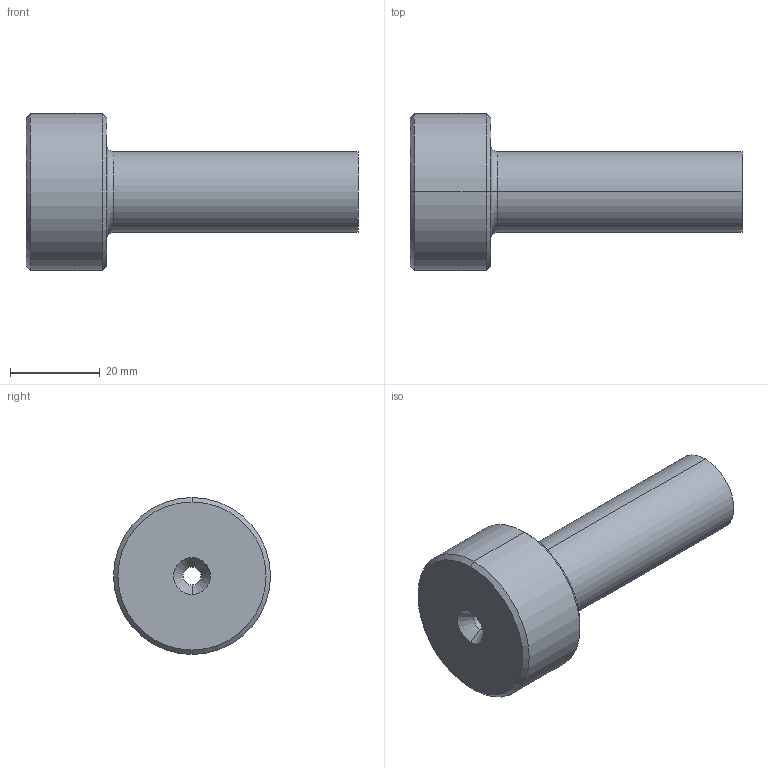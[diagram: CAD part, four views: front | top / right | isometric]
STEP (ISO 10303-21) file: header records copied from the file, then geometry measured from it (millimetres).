
FILE_DESCRIPTION (( 'STEP AP214' ), '1' );
FILE_NAME ('BRB7-056.STEP', '2020-01-29T09:57:45', ( 'August' ), ( '' ), 'SwSTEP 2.0', 'SolidWorks 2018', '' );
FILE_SCHEMA (( 'AUTOMOTIVE_DESIGN' ));
Length unit declared in the file: millimetre
Products named in the file (1): BRB7-056
Bounding box: 74 x 35 x 35 mm (x, y, z)
Volume: 29838.3 mm3; surface area: 8056.5 mm2
Topology: 1 solids, 1 shells, 17 faces, 34 edges, 20 vertices
Faces by surface type: cone 8, cylinder 4, plane 3, torus 2
Entity records: 484 total; most frequent: DIRECTION 92, CARTESIAN_POINT 72, ORIENTED_EDGE 68, AXIS2_PLACEMENT_3D 40, EDGE_CURVE 34, CIRCLE 22, VERTEX_POINT 20, EDGE_LOOP 20
